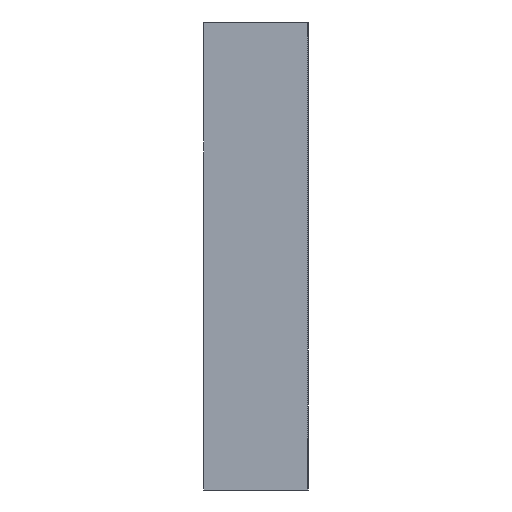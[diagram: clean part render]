
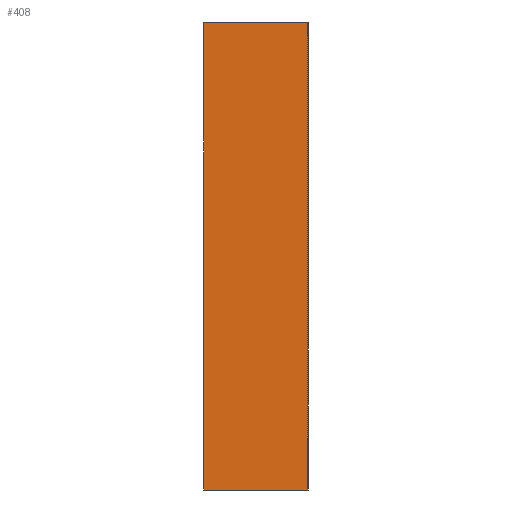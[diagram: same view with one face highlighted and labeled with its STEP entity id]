
A CAD part, left-side view. The second image highlights one B-rep face of the part: STEP entity #408.
In plain terms, the highlighted planar face has unit normal (-1, 0, 0).
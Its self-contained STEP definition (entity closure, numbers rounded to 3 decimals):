
#14 = ORIENTED_EDGE ( 'NONE', *, *, #224, .F. ) ;
#24 = CARTESIAN_POINT ( 'NONE',  ( 0., 0., 0. ) ) ;
#37 = CARTESIAN_POINT ( 'NONE',  ( 0., 0., 0. ) ) ;
#54 = VECTOR ( 'NONE', #431, 1000. ) ;
#65 = LINE ( 'NONE', #139, #106 ) ;
#74 = VERTEX_POINT ( 'NONE', #219 ) ;
#91 = ORIENTED_EDGE ( 'NONE', *, *, #171, .T. ) ;
#106 = VECTOR ( 'NONE', #438, 1000. ) ;
#128 = VECTOR ( 'NONE', #129, 1000. ) ;
#129 = DIRECTION ( 'NONE',  ( 0., -1., 0. ) ) ;
#138 = DIRECTION ( 'NONE',  ( 1., 0., 0. ) ) ;
#139 = CARTESIAN_POINT ( 'NONE',  ( 0., 2., 0. ) ) ;
#150 = ORIENTED_EDGE ( 'NONE', *, *, #195, .T. ) ;
#152 = EDGE_LOOP ( 'NONE', ( #91, #14, #196, #150 ) ) ;
#163 = CARTESIAN_POINT ( 'NONE',  ( 0., 2., -9. ) ) ;
#169 = LINE ( 'NONE', #163, #128 ) ;
#171 = EDGE_CURVE ( 'NONE', #74, #340, #391, .T. ) ;
#177 = VERTEX_POINT ( 'NONE', #354 ) ;
#193 = VECTOR ( 'NONE', #322, 1000. ) ;
#195 = EDGE_CURVE ( 'NONE', #304, #74, #169, .T. ) ;
#196 = ORIENTED_EDGE ( 'NONE', *, *, #228, .F. ) ;
#202 = CARTESIAN_POINT ( 'NONE',  ( 0., 2., 0. ) ) ;
#209 = FACE_OUTER_BOUND ( 'NONE', #152, .T. ) ;
#214 = CARTESIAN_POINT ( 'NONE',  ( 0., 2., -9. ) ) ;
#219 = CARTESIAN_POINT ( 'NONE',  ( 0., 0., -9. ) ) ;
#224 = EDGE_CURVE ( 'NONE', #177, #340, #368, .T. ) ;
#228 = EDGE_CURVE ( 'NONE', #304, #177, #65, .T. ) ;
#268 = PLANE ( 'NONE',  #290 ) ;
#273 = DIRECTION ( 'NONE',  ( 0., 0., -1. ) ) ;
#290 = AXIS2_PLACEMENT_3D ( 'NONE', #202, #138, #273 ) ;
#304 = VERTEX_POINT ( 'NONE', #214 ) ;
#322 = DIRECTION ( 'NONE',  ( 0., 0., 1. ) ) ;
#340 = VERTEX_POINT ( 'NONE', #37 ) ;
#354 = CARTESIAN_POINT ( 'NONE',  ( 0., 2., 0. ) ) ;
#361 = CARTESIAN_POINT ( 'NONE',  ( 0., 2., 0. ) ) ;
#368 = LINE ( 'NONE', #361, #54 ) ;
#391 = LINE ( 'NONE', #24, #193 ) ;
#408 = ADVANCED_FACE ( 'NONE', ( #209 ), #268, .F. ) ;
#431 = DIRECTION ( 'NONE',  ( 0., -1., 0. ) ) ;
#438 = DIRECTION ( 'NONE',  ( 0., 0., 1. ) ) ;
